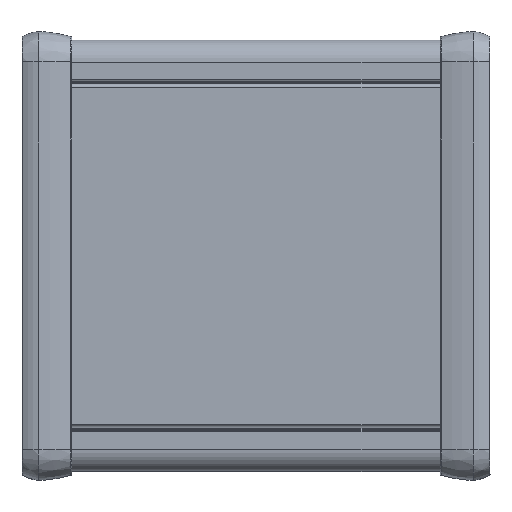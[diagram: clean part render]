
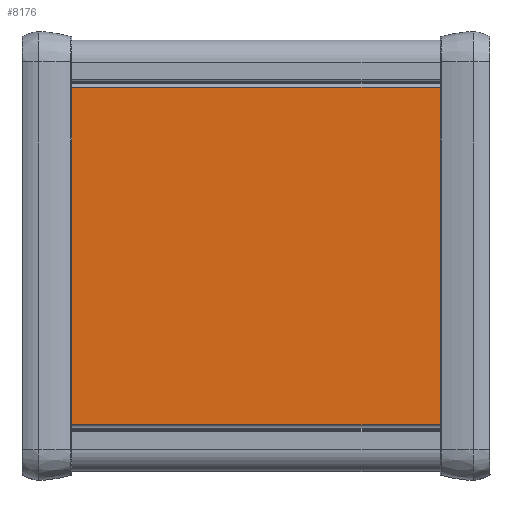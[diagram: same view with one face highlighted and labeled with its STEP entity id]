
A CAD part, top view. The second image highlights one B-rep face of the part: STEP entity #8176.
In plain terms, the highlighted planar face has unit normal (0, 0, 1) as drawn and (0, -1, 0) by its records, which use the part's own axes.
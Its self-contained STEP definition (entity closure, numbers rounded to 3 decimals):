
#261=PLANE('',#9113);
#616=FACE_OUTER_BOUND('',#1052,.T.);
#1052=EDGE_LOOP('',(#6979,#6980,#6981,#6982));
#1720=LINE('',#13867,#2411);
#1722=LINE('',#13875,#2413);
#1728=LINE('',#13897,#2419);
#1729=LINE('',#13898,#2420);
#2411=VECTOR('',#11303,10.);
#2413=VECTOR('',#11311,10.);
#2419=VECTOR('',#11329,10.);
#2420=VECTOR('',#11330,10.);
#3724=VERTEX_POINT('',#13864);
#3725=VERTEX_POINT('',#13866);
#3728=VERTEX_POINT('',#13874);
#3738=VERTEX_POINT('',#13896);
#4835=EDGE_CURVE('',#3725,#3724,#1720,.T.);
#4839=EDGE_CURVE('',#3728,#3725,#1722,.T.);
#4850=EDGE_CURVE('',#3724,#3738,#1728,.T.);
#4851=EDGE_CURVE('',#3728,#3738,#1729,.T.);
#6979=ORIENTED_EDGE('',*,*,#4850,.T.);
#6980=ORIENTED_EDGE('',*,*,#4851,.F.);
#6981=ORIENTED_EDGE('',*,*,#4839,.T.);
#6982=ORIENTED_EDGE('',*,*,#4835,.T.);
#8176=ADVANCED_FACE('',(#616),#261,.T.);
#9113=AXIS2_PLACEMENT_3D('',#13895,#11327,#11328);
#11303=DIRECTION('',(0.,0.,1.));
#11311=DIRECTION('',(1.,0.,0.));
#11327=DIRECTION('center_axis',(0.,-1.,0.));
#11328=DIRECTION('ref_axis',(0.,0.,-1.));
#11329=DIRECTION('',(-1.,0.,0.));
#11330=DIRECTION('',(0.,0.,1.));
#13864=CARTESIAN_POINT('',(30.51,0.,40.));
#13866=CARTESIAN_POINT('',(30.51,0.,-40.));
#13867=CARTESIAN_POINT('',(30.51,0.,0.));
#13874=CARTESIAN_POINT('',(-30.51,0.,-40.));
#13875=CARTESIAN_POINT('',(0.,0.,-40.));
#13895=CARTESIAN_POINT('Origin',(0.,0.,0.));
#13896=CARTESIAN_POINT('',(-30.51,0.,40.));
#13897=CARTESIAN_POINT('',(-30.51,0.,40.));
#13898=CARTESIAN_POINT('',(-30.51,0.,0.));
